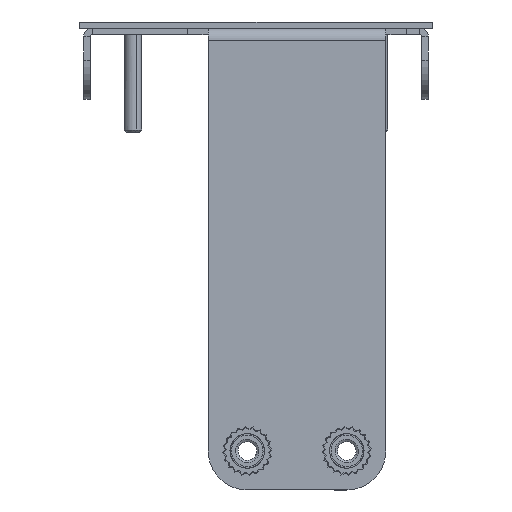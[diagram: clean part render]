
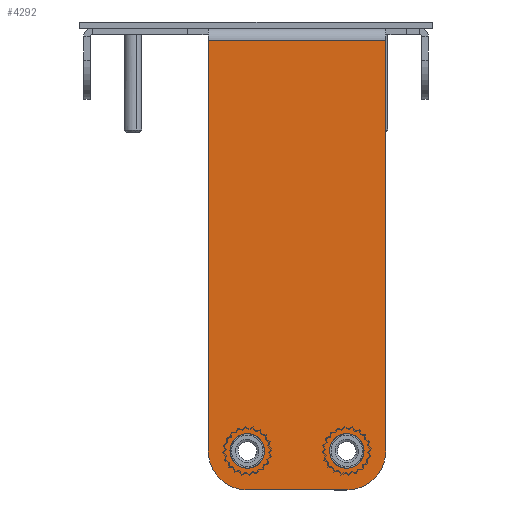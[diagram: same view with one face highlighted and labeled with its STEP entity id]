
A CAD part, left-side view. The second image highlights one B-rep face of the part: STEP entity #4292.
In plain terms, the highlighted planar face has unit normal (-1, 0, 0).
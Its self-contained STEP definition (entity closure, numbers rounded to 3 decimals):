
#382 = CIRCLE ( 'NONE', #2817, 4.763 ) ;
#556 = DIRECTION ( 'NONE',  ( 0., -1., 0. ) ) ;
#1125 = ORIENTED_EDGE ( 'NONE', *, *, #18073, .T. ) ;
#1157 = DIRECTION ( 'NONE',  ( 0., 0., -1. ) ) ;
#1586 = ORIENTED_EDGE ( 'NONE', *, *, #5501, .T. ) ;
#1603 = CARTESIAN_POINT ( 'NONE',  ( -72.523, -15.825, 0.809 ) ) ;
#1707 = VERTEX_POINT ( 'NONE', #11052 ) ;
#1725 = CIRCLE ( 'NONE', #4169, 2.108 ) ;
#1773 = DIRECTION ( 'NONE',  ( 0., 0., 1. ) ) ;
#1981 = CARTESIAN_POINT ( 'NONE',  ( -72.523, 23.878, -1.505 ) ) ;
#2232 = DIRECTION ( 'NONE',  ( 0., -1., 0. ) ) ;
#2254 = CARTESIAN_POINT ( 'NONE',  ( -72.523, -11.063, -51.532 ) ) ;
#2563 = DIRECTION ( 'NONE',  ( 0., 0., 1. ) ) ;
#2817 = AXIS2_PLACEMENT_3D ( 'NONE', #12019, #18066, #4855 ) ;
#2932 = ORIENTED_EDGE ( 'NONE', *, *, #14548, .F. ) ;
#3075 = AXIS2_PLACEMENT_3D ( 'NONE', #10041, #17411, #11834 ) ;
#3080 = CARTESIAN_POINT ( 'NONE',  ( -72.523, -11.063, -56.294 ) ) ;
#3920 = VECTOR ( 'NONE', #2232, 1000. ) ;
#4095 = FACE_OUTER_BOUND ( 'NONE', #5726, .T. ) ;
#4119 = AXIS2_PLACEMENT_3D ( 'NONE', #8521, #14106, #15906 ) ;
#4169 = AXIS2_PLACEMENT_3D ( 'NONE', #7192, #16940, #2563 ) ;
#4292 = ADVANCED_FACE ( 'NONE', ( #6906, #6812, #4095 ), #5585, .T. ) ;
#4418 = ORIENTED_EDGE ( 'NONE', *, *, #4588, .T. ) ;
#4588 = EDGE_CURVE ( 'NONE', #5446, #17154, #14843, .T. ) ;
#4855 = DIRECTION ( 'NONE',  ( 0., 0., 1. ) ) ;
#4880 = CARTESIAN_POINT ( 'NONE',  ( -72.523, -15.825, -51.532 ) ) ;
#4889 = EDGE_LOOP ( 'NONE', ( #2932, #9623 ) ) ;
#5446 = VERTEX_POINT ( 'NONE', #3080 ) ;
#5482 = AXIS2_PLACEMENT_3D ( 'NONE', #2254, #8006, #15314 ) ;
#5501 = EDGE_CURVE ( 'NONE', #17901, #1707, #382, .T. ) ;
#5585 = PLANE ( 'NONE',  #3075 ) ;
#5726 = EDGE_LOOP ( 'NONE', ( #17540, #1125, #1586, #12992, #4418, #10945 ) ) ;
#5728 = CARTESIAN_POINT ( 'NONE',  ( -72.523, 5.826, -51.532 ) ) ;
#6189 = VERTEX_POINT ( 'NONE', #14610 ) ;
#6539 = DIRECTION ( 'NONE',  ( 0., 0., 1. ) ) ;
#6812 = FACE_BOUND ( 'NONE', #4889, .T. ) ;
#6830 = DIRECTION ( 'NONE',  ( -1., 0., 0. ) ) ;
#6906 = FACE_BOUND ( 'NONE', #14819, .T. ) ;
#6909 = VECTOR ( 'NONE', #1773, 1000. ) ;
#6974 = EDGE_CURVE ( 'NONE', #17154, #13908, #8791, .T. ) ;
#7106 = EDGE_CURVE ( 'NONE', #1707, #5446, #7810, .T. ) ;
#7192 = CARTESIAN_POINT ( 'NONE',  ( -72.523, -11.063, -51.534 ) ) ;
#7511 = VERTEX_POINT ( 'NONE', #10937 ) ;
#7664 = VECTOR ( 'NONE', #556, 1000. ) ;
#7693 = AXIS2_PLACEMENT_3D ( 'NONE', #8089, #13888, #7915 ) ;
#7810 = LINE ( 'NONE', #9337, #3920 ) ;
#7915 = DIRECTION ( 'NONE',  ( 0., 0., 1. ) ) ;
#8006 = DIRECTION ( 'NONE',  ( -1., 0., 0. ) ) ;
#8089 = CARTESIAN_POINT ( 'NONE',  ( -72.523, 1.063, -51.534 ) ) ;
#8111 = LINE ( 'NONE', #1981, #7664 ) ;
#8435 = VERTEX_POINT ( 'NONE', #8646 ) ;
#8521 = CARTESIAN_POINT ( 'NONE',  ( -72.523, -11.063, -51.534 ) ) ;
#8628 = ORIENTED_EDGE ( 'NONE', *, *, #18100, .F. ) ;
#8646 = CARTESIAN_POINT ( 'NONE',  ( -72.523, 1.063, -49.426 ) ) ;
#8670 = CARTESIAN_POINT ( 'NONE',  ( -72.523, -15.825, -1.505 ) ) ;
#8791 = LINE ( 'NONE', #1603, #6909 ) ;
#9337 = CARTESIAN_POINT ( 'NONE',  ( -72.523, 1.063, -56.294 ) ) ;
#9623 = ORIENTED_EDGE ( 'NONE', *, *, #15374, .F. ) ;
#9680 = CARTESIAN_POINT ( 'NONE',  ( -72.523, 1.063, -51.534 ) ) ;
#10041 = CARTESIAN_POINT ( 'NONE',  ( -72.523, 23.878, 139.506 ) ) ;
#10937 = CARTESIAN_POINT ( 'NONE',  ( -72.523, 1.063, -53.642 ) ) ;
#10945 = ORIENTED_EDGE ( 'NONE', *, *, #6974, .T. ) ;
#11052 = CARTESIAN_POINT ( 'NONE',  ( -72.523, 1.063, -56.294 ) ) ;
#11411 = CARTESIAN_POINT ( 'NONE',  ( -72.523, -11.063, -49.426 ) ) ;
#11834 = DIRECTION ( 'NONE',  ( 0., 0., 1. ) ) ;
#12005 = EDGE_CURVE ( 'NONE', #7511, #8435, #17364, .T. ) ;
#12019 = CARTESIAN_POINT ( 'NONE',  ( -72.523, 1.063, -51.532 ) ) ;
#12667 = AXIS2_PLACEMENT_3D ( 'NONE', #9680, #6830, #6539 ) ;
#12992 = ORIENTED_EDGE ( 'NONE', *, *, #7106, .T. ) ;
#13011 = VERTEX_POINT ( 'NONE', #11411 ) ;
#13805 = EDGE_CURVE ( 'NONE', #6189, #13908, #8111, .T. ) ;
#13888 = DIRECTION ( 'NONE',  ( -1., 0., 0. ) ) ;
#13908 = VERTEX_POINT ( 'NONE', #8670 ) ;
#14106 = DIRECTION ( 'NONE',  ( -1., 0., 0. ) ) ;
#14548 = EDGE_CURVE ( 'NONE', #13011, #15660, #1725, .T. ) ;
#14610 = CARTESIAN_POINT ( 'NONE',  ( -72.523, 5.826, -1.505 ) ) ;
#14819 = EDGE_LOOP ( 'NONE', ( #8628, #17284 ) ) ;
#14843 = CIRCLE ( 'NONE', #5482, 4.763 ) ;
#15314 = DIRECTION ( 'NONE',  ( 0., 0., 1. ) ) ;
#15325 = CARTESIAN_POINT ( 'NONE',  ( -72.523, -11.063, -53.642 ) ) ;
#15374 = EDGE_CURVE ( 'NONE', #15660, #13011, #18284, .T. ) ;
#15660 = VERTEX_POINT ( 'NONE', #15325 ) ;
#15906 = DIRECTION ( 'NONE',  ( 0., 0., 1. ) ) ;
#16940 = DIRECTION ( 'NONE',  ( -1., 0., 0. ) ) ;
#17154 = VERTEX_POINT ( 'NONE', #4880 ) ;
#17284 = ORIENTED_EDGE ( 'NONE', *, *, #12005, .F. ) ;
#17364 = CIRCLE ( 'NONE', #7693, 2.108 ) ;
#17411 = DIRECTION ( 'NONE',  ( -1., 0., 0. ) ) ;
#17540 = ORIENTED_EDGE ( 'NONE', *, *, #13805, .F. ) ;
#17901 = VERTEX_POINT ( 'NONE', #5728 ) ;
#18066 = DIRECTION ( 'NONE',  ( -1., 0., 0. ) ) ;
#18073 = EDGE_CURVE ( 'NONE', #6189, #17901, #18366, .T. ) ;
#18089 = CARTESIAN_POINT ( 'NONE',  ( -72.523, 5.826, -1.731 ) ) ;
#18100 = EDGE_CURVE ( 'NONE', #8435, #7511, #18393, .T. ) ;
#18107 = VECTOR ( 'NONE', #1157, 1000. ) ;
#18284 = CIRCLE ( 'NONE', #4119, 2.108 ) ;
#18366 = LINE ( 'NONE', #18089, #18107 ) ;
#18393 = CIRCLE ( 'NONE', #12667, 2.108 ) ;
